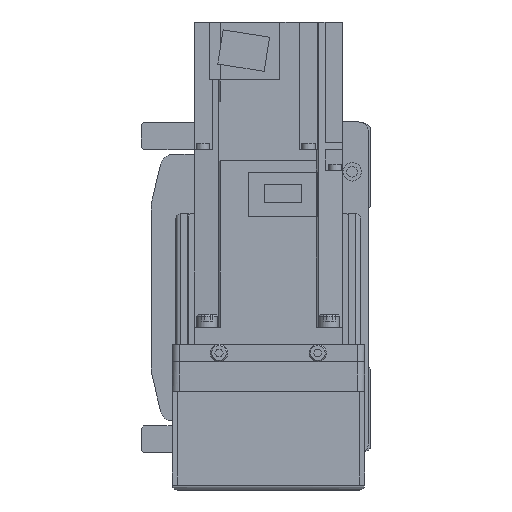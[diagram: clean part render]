
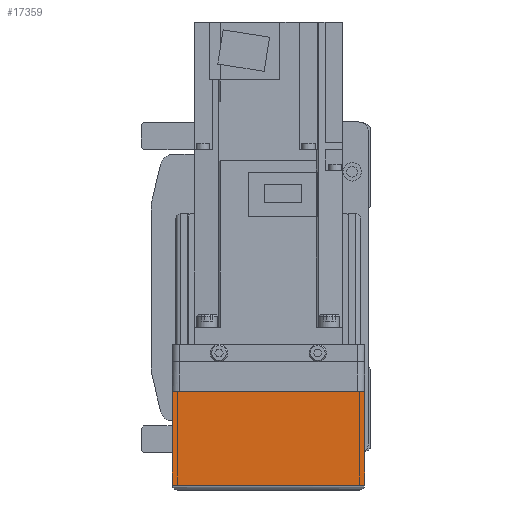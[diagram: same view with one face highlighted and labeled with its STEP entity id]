
A CAD part, left-side view. The second image highlights one B-rep face of the part: STEP entity #17359.
In plain terms, the highlighted planar face has unit normal (-1, 0, 0).
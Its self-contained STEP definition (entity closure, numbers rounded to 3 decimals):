
#2600=ORIENTED_EDGE('',*,*,#6993,.F.);
#2601=ORIENTED_EDGE('',*,*,#6994,.F.);
#2602=ORIENTED_EDGE('',*,*,#6995,.T.);
#2603=ORIENTED_EDGE('',*,*,#6996,.F.);
#6993=EDGE_CURVE('',#9288,#9279,#11081,.T.);
#6994=EDGE_CURVE('',#9305,#9288,#11082,.T.);
#6995=EDGE_CURVE('',#9305,#9306,#11083,.T.);
#6996=EDGE_CURVE('',#9279,#9306,#11084,.T.);
#9279=VERTEX_POINT('',#26668);
#9288=VERTEX_POINT('',#26686);
#9305=VERTEX_POINT('',#26734);
#9306=VERTEX_POINT('',#26736);
#11081=LINE('',#26732,#12701);
#11082=LINE('',#26733,#12702);
#11083=LINE('',#26735,#12703);
#11084=LINE('',#26737,#12704);
#12701=VECTOR('',#21397,1000.);
#12702=VECTOR('',#21398,1000.);
#12703=VECTOR('',#21399,1000.);
#12704=VECTOR('',#21400,1000.);
#14153=EDGE_LOOP('',(#2600,#2601,#2602,#2603));
#15473=FACE_BOUND('',#14153,.T.);
#16634=PLANE('',#18601);
#17359=ADVANCED_FACE('',(#15473),#16634,.F.);
#18601=AXIS2_PLACEMENT_3D('',#26731,#21395,#21396);
#21395=DIRECTION('',(1.,0.,0.));
#21396=DIRECTION('',(0.,0.,-1.));
#21397=DIRECTION('',(0.,-1.,0.));
#21398=DIRECTION('',(0.,0.,1.));
#21399=DIRECTION('',(0.,-1.,0.));
#21400=DIRECTION('',(0.,0.,-1.));
#26668=CARTESIAN_POINT('',(-158.,-39.,-12.1));
#26686=CARTESIAN_POINT('',(-158.,39.,-12.1));
#26731=CARTESIAN_POINT('',(-158.,36.,7.));
#26732=CARTESIAN_POINT('',(-158.,50.,-12.1));
#26733=CARTESIAN_POINT('',(-158.,39.,-50.));
#26734=CARTESIAN_POINT('',(-158.,39.,-50.));
#26735=CARTESIAN_POINT('',(-158.,40.,-50.));
#26736=CARTESIAN_POINT('',(-158.,-39.,-50.));
#26737=CARTESIAN_POINT('',(-158.,-39.,-12.1));
